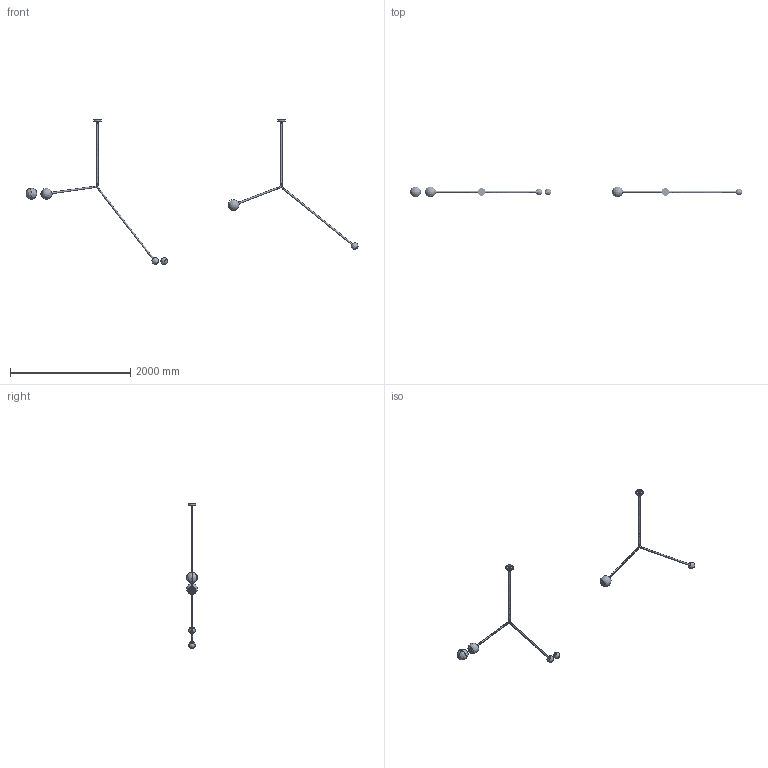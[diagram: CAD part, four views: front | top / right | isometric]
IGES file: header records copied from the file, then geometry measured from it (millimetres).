
Global section: file name: /Users/danielszollosi/Documents/SkLO/Sklo.com/3D models/WEB 3D Models/SkLO_LT901_Angle1.0Pendant_3D_m.igs; native system: Rhinoceros ( Dec  3 2024 ); preprocessor: Trout Lake IGES 012 Dec  3 2024; date: 250320.104323; units: millimetre
Bounding box: 5521.22 x 180 x 2407.69 mm (x, y, z)
Surface area: 1954861.1 mm2 (no closed solid volume)
Topology: 0 solids, 0 shells, 2576 faces, 42750 edges, 42374 vertices
Faces by surface type: bspline 2576
